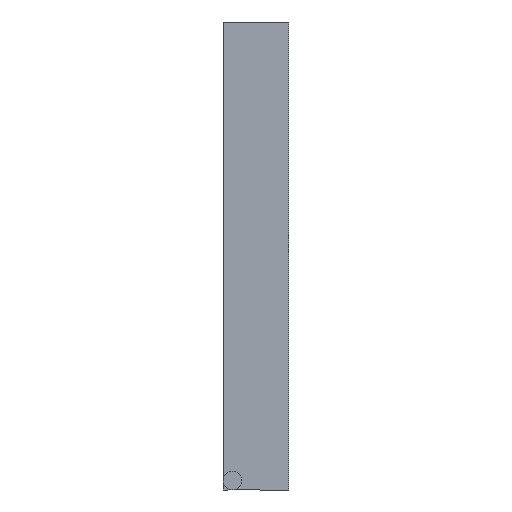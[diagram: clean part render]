
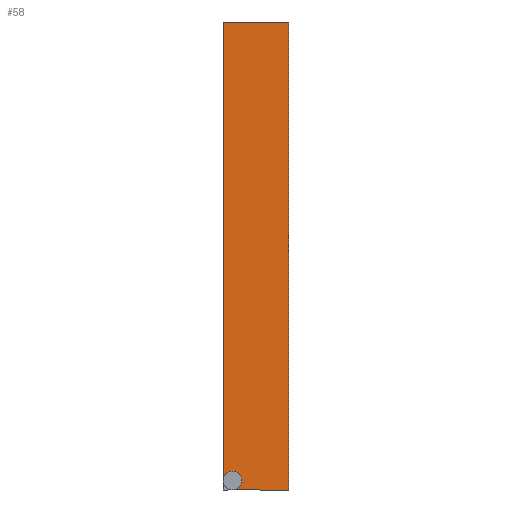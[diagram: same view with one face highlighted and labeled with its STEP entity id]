
A CAD part, left-side view. The second image highlights one B-rep face of the part: STEP entity #58.
In plain terms, the highlighted planar face has unit normal (-1, 0, 0).
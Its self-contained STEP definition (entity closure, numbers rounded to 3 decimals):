
#58=ADVANCED_FACE('',(#166),#168,.T.);
#166=FACE_BOUND('',#167,.T.);
#167=EDGE_LOOP('',(#254,#255,#256,#257,#258));
#168=PLANE('',#169);
#169=AXIS2_PLACEMENT_3D('',#170,#171,#172);
#170=CARTESIAN_POINT('',(-15.,-1.4,0.));
#171=DIRECTION('',(-1.,0.,0.));
#172=DIRECTION('',(0.,0.,1.));
#254=ORIENTED_EDGE('',*,*,#298,.F.);
#255=ORIENTED_EDGE('',*,*,#299,.F.);
#256=ORIENTED_EDGE('',*,*,#300,.T.);
#257=ORIENTED_EDGE('',*,*,#301,.T.);
#258=ORIENTED_EDGE('',*,*,#302,.F.);
#298=EDGE_CURVE('',#320,#321,#322,.F.);
#299=EDGE_CURVE('',#323,#320,#324,.T.);
#300=EDGE_CURVE('',#323,#325,#326,.T.);
#301=EDGE_CURVE('',#325,#327,#328,.T.);
#302=EDGE_CURVE('',#321,#327,#329,.T.);
#320=VERTEX_POINT('',#356);
#321=VERTEX_POINT('',#357);
#322=CIRCLE('',#358,0.4);
#323=VERTEX_POINT('',#362);
#324=LINE('',#363,#364);
#325=VERTEX_POINT('',#366);
#326=LINE('',#367,#368);
#327=VERTEX_POINT('',#370);
#328=LINE('',#371,#372);
#329=LINE('',#374,#375);
#356=CARTESIAN_POINT('',(-15.,1.,0.));
#357=CARTESIAN_POINT('',(-15.,1.4,0.4));
#358=AXIS2_PLACEMENT_3D('',#359,#360,#361);
#359=CARTESIAN_POINT('',(-15.,1.,0.4));
#360=DIRECTION('',(1.,0.,0.));
#361=DIRECTION('',(0.,1.,0.));
#362=CARTESIAN_POINT('',(-15.,-1.4,0.));
#363=CARTESIAN_POINT('',(-15.,-1.4,0.));
#364=VECTOR('',#365,1.);
#365=DIRECTION('',(0.,1.,0.));
#366=CARTESIAN_POINT('',(-15.,-1.4,20.));
#367=CARTESIAN_POINT('',(-15.,-1.4,0.));
#368=VECTOR('',#369,1.);
#369=DIRECTION('',(0.,0.,1.));
#370=CARTESIAN_POINT('',(-15.,1.4,20.));
#371=CARTESIAN_POINT('',(-15.,-1.4,20.));
#372=VECTOR('',#373,1.);
#373=DIRECTION('',(0.,1.,0.));
#374=CARTESIAN_POINT('',(-15.,1.4,0.4));
#375=VECTOR('',#376,1.);
#376=DIRECTION('',(0.,0.,1.));
